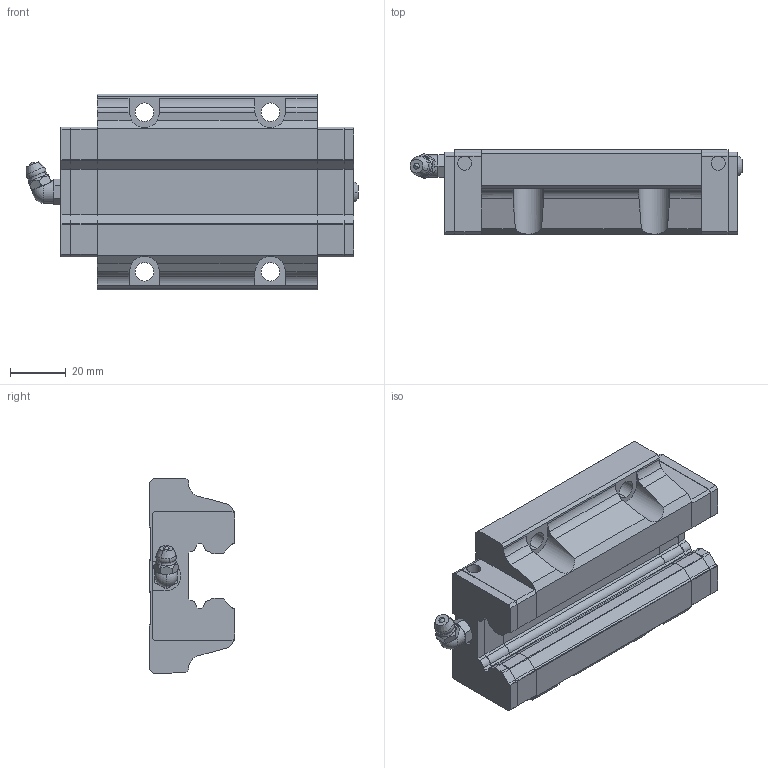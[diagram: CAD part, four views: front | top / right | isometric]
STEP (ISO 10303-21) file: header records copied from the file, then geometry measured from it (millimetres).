
FILE_DESCRIPTION (( 'STEP AP203' ), '1' );
FILE_NAME ('SGW25HA.STEP', '2025-06-27T05:58:16', ( 'Owner' ), ( 'Organization' ), 'SwSTEP 2.0', 'SolidWorks 2020', '' );
FILE_SCHEMA (( 'CONFIG_CONTROL_DESIGN' ));
Length unit declared in the file: millimetre
Products named in the file (1): SGW25HA
Bounding box: 118.6 x 30.5 x 70 mm (x, y, z)
Volume: 145143.3 mm3; surface area: 37114.9 mm2
Topology: 7 solids, 8 shells, 445 faces, 1186 edges, 763 vertices
Faces by surface type: plane 297, cylinder 118, cone 16, sphere 6, torus 6, bspline 2
Entity records: 14246 total; most frequent: CARTESIAN_POINT 2994, ORIENTED_EDGE 2364, DIRECTION 2300, EDGE_CURVE 1182, VECTOR 844, LINE 844, VERTEX_POINT 761, AXIS2_PLACEMENT_3D 728
